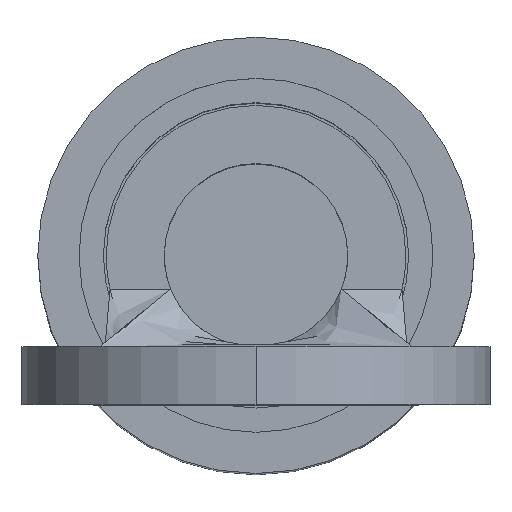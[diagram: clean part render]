
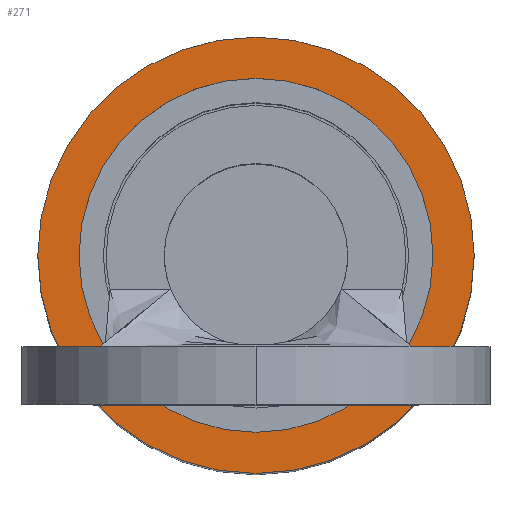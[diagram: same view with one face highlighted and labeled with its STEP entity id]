
A CAD part, top view. The second image highlights one B-rep face of the part: STEP entity #271.
In plain terms, the highlighted planar face has unit normal (0, 0, 1).
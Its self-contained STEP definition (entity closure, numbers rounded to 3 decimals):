
#20 = CIRCLE ( 'NONE', #157, 2.959 ) ;
#24 = CIRCLE ( 'NONE', #160, 2.959 ) ;
#43 = CIRCLE ( 'NONE', #156, 2.4 ) ;
#50 = CIRCLE ( 'NONE', #175, 2.4 ) ;
#58 = FACE_BOUND ( 'NONE', #1175, .T. ) ;
#67 = FACE_OUTER_BOUND ( 'NONE', #512, .T. ) ;
#156 = AXIS2_PLACEMENT_3D ( 'NONE', #941, #942, #943 ) ;
#157 = AXIS2_PLACEMENT_3D ( 'NONE', #944, #945, #946 ) ;
#160 = AXIS2_PLACEMENT_3D ( 'NONE', #931, #932, #933 ) ;
#175 = AXIS2_PLACEMENT_3D ( 'NONE', #456, #457, #458 ) ;
#232 = CARTESIAN_POINT ( 'NONE',  ( -2.4, 2.032, -4.343 ) ) ;
#240 = CARTESIAN_POINT ( 'NONE',  ( 2.4, 2.032, -4.343 ) ) ;
#246 = CARTESIAN_POINT ( 'NONE',  ( 2.959, 2.032, -4.343 ) ) ;
#271 = ADVANCED_FACE ( 'NONE', ( #58, #67 ), #672, .F. ) ;
#456 = CARTESIAN_POINT ( 'NONE',  ( 0., 2.032, -4.343 ) ) ;
#457 = DIRECTION ( 'NONE',  ( 0., 0., 1. ) ) ;
#458 = DIRECTION ( 'NONE',  ( -1., 0., 0. ) ) ;
#512 = EDGE_LOOP ( 'NONE', ( #815, #848 ) ) ;
#538 = VERTEX_POINT ( 'NONE', #619 ) ;
#619 = CARTESIAN_POINT ( 'NONE',  ( -2.959, 2.032, -4.343 ) ) ;
#647 = DIRECTION ( 'NONE',  ( -1., 0., 0. ) ) ;
#650 = DIRECTION ( 'NONE',  ( 0., 0., -1. ) ) ;
#652 = CARTESIAN_POINT ( 'NONE',  ( 0., 2.032, -4.343 ) ) ;
#672 = PLANE ( 'NONE',  #1035 ) ;
#815 = ORIENTED_EDGE ( 'NONE', *, *, #1097, .F. ) ;
#825 = VERTEX_POINT ( 'NONE', #232 ) ;
#848 = ORIENTED_EDGE ( 'NONE', *, *, #1104, .F. ) ;
#850 = ORIENTED_EDGE ( 'NONE', *, *, #1103, .F. ) ;
#862 = VERTEX_POINT ( 'NONE', #240 ) ;
#875 = ORIENTED_EDGE ( 'NONE', *, *, #1072, .F. ) ;
#885 = VERTEX_POINT ( 'NONE', #246 ) ;
#931 = CARTESIAN_POINT ( 'NONE',  ( 0., 2.032, -4.343 ) ) ;
#932 = DIRECTION ( 'NONE',  ( 0., 0., -1. ) ) ;
#933 = DIRECTION ( 'NONE',  ( -1., 0., 0. ) ) ;
#941 = CARTESIAN_POINT ( 'NONE',  ( 0., 2.032, -4.343 ) ) ;
#942 = DIRECTION ( 'NONE',  ( 0., 0., 1. ) ) ;
#943 = DIRECTION ( 'NONE',  ( -1., 0., 0. ) ) ;
#944 = CARTESIAN_POINT ( 'NONE',  ( 0., 2.032, -4.343 ) ) ;
#945 = DIRECTION ( 'NONE',  ( 0., 0., -1. ) ) ;
#946 = DIRECTION ( 'NONE',  ( -1., 0., 0. ) ) ;
#1035 = AXIS2_PLACEMENT_3D ( 'NONE', #652, #650, #647 ) ;
#1072 = EDGE_CURVE ( 'NONE', #825, #862, #50, .T. ) ;
#1097 = EDGE_CURVE ( 'NONE', #538, #885, #24, .T. ) ;
#1103 = EDGE_CURVE ( 'NONE', #862, #825, #43, .T. ) ;
#1104 = EDGE_CURVE ( 'NONE', #885, #538, #20, .T. ) ;
#1175 = EDGE_LOOP ( 'NONE', ( #875, #850 ) ) ;
